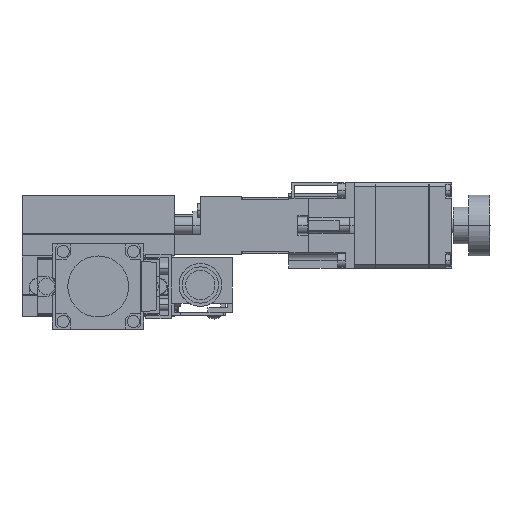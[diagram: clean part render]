
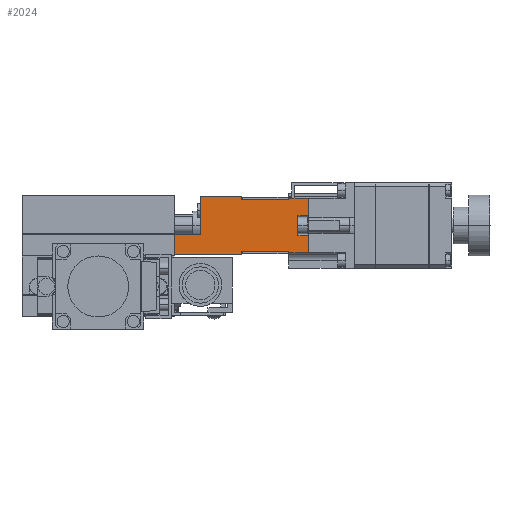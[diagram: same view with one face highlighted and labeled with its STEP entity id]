
A CAD part, left-side view. The second image highlights one B-rep face of the part: STEP entity #2024.
In plain terms, the highlighted planar face has unit normal (-1, 0, 0).
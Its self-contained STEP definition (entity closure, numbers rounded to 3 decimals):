
#2024=ADVANCED_FACE('',(#5203),#5204,.F.);
#5203=FACE_OUTER_BOUND('',#8537,.T.);
#5204=PLANE('',#8538);
#8537=EDGE_LOOP('',(#20331,#20332,#20333,#20334,#20335,#20336,#20337,#20338,#20339,#20340,#20341,#20342,#20343,#20344,#20345,#20346,#20347,#20348));
#8538=AXIS2_PLACEMENT_3D('',#20349,#20350,#20351);
#20331=ORIENTED_EDGE('',*,*,#25070,.F.);
#20332=ORIENTED_EDGE('',*,*,#25225,.T.);
#20333=ORIENTED_EDGE('',*,*,#25211,.F.);
#20334=ORIENTED_EDGE('',*,*,#25226,.F.);
#20335=ORIENTED_EDGE('',*,*,#25060,.T.);
#20336=ORIENTED_EDGE('',*,*,#25227,.F.);
#20337=ORIENTED_EDGE('',*,*,#24963,.F.);
#20338=ORIENTED_EDGE('',*,*,#25181,.T.);
#20339=ORIENTED_EDGE('',*,*,#25133,.T.);
#20340=ORIENTED_EDGE('',*,*,#25228,.F.);
#20341=ORIENTED_EDGE('',*,*,#25229,.T.);
#20342=ORIENTED_EDGE('',*,*,#25230,.F.);
#20343=ORIENTED_EDGE('',*,*,#24955,.F.);
#20344=ORIENTED_EDGE('',*,*,#25078,.F.);
#20345=ORIENTED_EDGE('',*,*,#25054,.T.);
#20346=ORIENTED_EDGE('',*,*,#25175,.F.);
#20347=ORIENTED_EDGE('',*,*,#25217,.F.);
#20348=ORIENTED_EDGE('',*,*,#25122,.T.);
#20349=CARTESIAN_POINT('',(-20.,-62.5,39.5));
#20350=DIRECTION('',(1.0,0.,0.));
#20351=DIRECTION('',(0.,0.,-1.0));
#24955=EDGE_CURVE('',#31245,#31247,#31248,.T.);
#24963=EDGE_CURVE('',#31259,#31236,#31261,.T.);
#25054=EDGE_CURVE('',#31412,#31410,#31413,.T.);
#25060=EDGE_CURVE('',#31424,#31422,#31425,.T.);
#25070=EDGE_CURVE('',#31437,#31438,#31439,.T.);
#25078=EDGE_CURVE('',#31412,#31245,#31451,.T.);
#25122=EDGE_CURVE('',#31509,#31438,#31511,.T.);
#25133=EDGE_CURVE('',#31527,#31525,#31528,.T.);
#25175=EDGE_CURVE('',#31587,#31410,#31589,.T.);
#25181=EDGE_CURVE('',#31259,#31527,#31596,.T.);
#25211=EDGE_CURVE('',#31647,#31643,#31649,.T.);
#25217=EDGE_CURVE('',#31509,#31587,#31656,.T.);
#25225=EDGE_CURVE('',#31437,#31643,#31666,.T.);
#25226=EDGE_CURVE('',#31424,#31647,#31667,.T.);
#25227=EDGE_CURVE('',#31236,#31422,#31668,.T.);
#25228=EDGE_CURVE('',#31669,#31525,#31670,.T.);
#25229=EDGE_CURVE('',#31669,#31671,#31672,.T.);
#25230=EDGE_CURVE('',#31247,#31671,#31673,.T.);
#31236=VERTEX_POINT('',#40471);
#31245=VERTEX_POINT('',#40484);
#31247=VERTEX_POINT('',#40487);
#31248=LINE('',#40488,#40489);
#31259=VERTEX_POINT('',#40506);
#31261=LINE('',#40509,#40510);
#31410=VERTEX_POINT('',#40732);
#31412=VERTEX_POINT('',#40735);
#31413=LINE('',#40736,#40737);
#31422=VERTEX_POINT('',#40750);
#31424=VERTEX_POINT('',#40753);
#31425=LINE('',#40754,#40755);
#31437=VERTEX_POINT('',#40771);
#31438=VERTEX_POINT('',#40772);
#31439=LINE('',#40773,#40774);
#31451=LINE('',#40792,#40793);
#31509=VERTEX_POINT('',#40887);
#31511=LINE('',#40890,#40891);
#31525=VERTEX_POINT('',#40955);
#31527=VERTEX_POINT('',#40958);
#31528=LINE('',#40959,#40960);
#31587=VERTEX_POINT('',#41054);
#31589=LINE('',#41057,#41058);
#31596=LINE('',#41069,#41070);
#31643=VERTEX_POINT('',#41143);
#31647=VERTEX_POINT('',#41149);
#31649=LINE('',#41152,#41153);
#31656=LINE('',#41165,#41166);
#31666=LINE('',#41182,#41183);
#31667=LINE('',#41184,#41185);
#31668=LINE('',#41186,#41187);
#31669=VERTEX_POINT('',#41188);
#31670=LINE('',#41189,#41190);
#31671=VERTEX_POINT('',#41191);
#31672=LINE('',#41192,#41193);
#31673=LINE('',#41194,#41195);
#40471=CARTESIAN_POINT('',(-20.,-47.,38.5));
#40484=CARTESIAN_POINT('',(-20.,-47.,21.5));
#40487=CARTESIAN_POINT('',(-20.,-47.,20.5));
#40488=CARTESIAN_POINT('',(-20.,-47.,21.5));
#40489=VECTOR('',#47409,1000.0);
#40506=CARTESIAN_POINT('',(-20.,-47.,39.5));
#40509=CARTESIAN_POINT('',(-20.,-47.,39.5));
#40510=VECTOR('',#47417,1000.0);
#40732=CARTESIAN_POINT('',(-20.,-62.5,21.1));
#40735=CARTESIAN_POINT('',(-20.,-62.5,21.5));
#40736=CARTESIAN_POINT('',(-20.,-62.5,44.));
#40737=VECTOR('',#47540,1000.0);
#40750=CARTESIAN_POINT('',(-20.,-62.5,38.5));
#40753=CARTESIAN_POINT('',(-20.,-62.5,38.9));
#40754=CARTESIAN_POINT('',(-20.,-62.5,44.));
#40755=VECTOR('',#47546,1000.0);
#40771=CARTESIAN_POINT('',(-20.,-65.5,33.25));
#40772=CARTESIAN_POINT('',(-20.,-65.5,26.75));
#40773=CARTESIAN_POINT('',(-20.,-65.5,39.5));
#40774=VECTOR('',#47566,1000.0);
#40792=CARTESIAN_POINT('',(-20.,-62.5,21.5));
#40793=VECTOR('',#47576,1000.0);
#40887=CARTESIAN_POINT('',(-20.,-69.,26.75));
#40890=CARTESIAN_POINT('',(-20.,-62.5,26.75));
#40891=VECTOR('',#47632,1000.0);
#40955=CARTESIAN_POINT('',(-20.,-33.5,27.));
#40958=CARTESIAN_POINT('',(-20.,-33.5,39.5));
#40959=CARTESIAN_POINT('',(-20.,-33.5,39.5));
#40960=VECTOR('',#47649,1000.0);
#41054=CARTESIAN_POINT('',(-20.,-69.,21.1));
#41057=CARTESIAN_POINT('',(-20.,-62.5,21.1));
#41058=VECTOR('',#47701,1000.0);
#41069=CARTESIAN_POINT('',(-20.,-62.5,39.5));
#41070=VECTOR('',#47709,1000.0);
#41143=CARTESIAN_POINT('',(-20.,-69.,33.25));
#41149=CARTESIAN_POINT('',(-20.,-69.,38.9));
#41152=CARTESIAN_POINT('',(-20.,-69.,39.5));
#41153=VECTOR('',#47739,1000.0);
#41165=CARTESIAN_POINT('',(-20.,-69.,39.5));
#41166=VECTOR('',#47745,1000.0);
#41182=CARTESIAN_POINT('',(-20.,-62.5,33.25));
#41183=VECTOR('',#47755,1000.0);
#41184=CARTESIAN_POINT('',(-20.,-62.5,38.9));
#41185=VECTOR('',#47756,1000.0);
#41186=CARTESIAN_POINT('',(-20.,-47.,38.5));
#41187=VECTOR('',#47757,1000.0);
#41188=CARTESIAN_POINT('',(-20.,-25.,27.));
#41189=CARTESIAN_POINT('',(-20.,-25.,27.));
#41190=VECTOR('',#47758,1000.0);
#41191=CARTESIAN_POINT('',(-20.,-25.,20.5));
#41192=CARTESIAN_POINT('',(-20.,-25.,27.));
#41193=VECTOR('',#47759,1000.0);
#41194=CARTESIAN_POINT('',(-20.,-62.5,20.5));
#41195=VECTOR('',#47760,1000.0);
#47409=DIRECTION('',(0.,0.,-1.0));
#47417=DIRECTION('',(0.,0.,-1.0));
#47540=DIRECTION('',(0.,0.,-1.0));
#47546=DIRECTION('',(0.,0.,-1.0));
#47566=DIRECTION('',(0.,0.,-1.0));
#47576=DIRECTION('',(0.,1.0,0.0));
#47632=DIRECTION('',(0.,1.0,0.0));
#47649=DIRECTION('',(0.,0.,-1.0));
#47701=DIRECTION('',(0.,1.0,0.0));
#47709=DIRECTION('',(0.,1.0,0.0));
#47739=DIRECTION('',(0.,0.,-1.0));
#47745=DIRECTION('',(0.,0.,-1.0));
#47755=DIRECTION('',(0.,-1.0,0.0));
#47756=DIRECTION('',(0.,-1.0,0.0));
#47757=DIRECTION('',(0.,-1.0,0.0));
#47758=DIRECTION('',(0.,-1.0,0.0));
#47759=DIRECTION('',(0.,0.,-1.0));
#47760=DIRECTION('',(0.,1.0,0.0));
